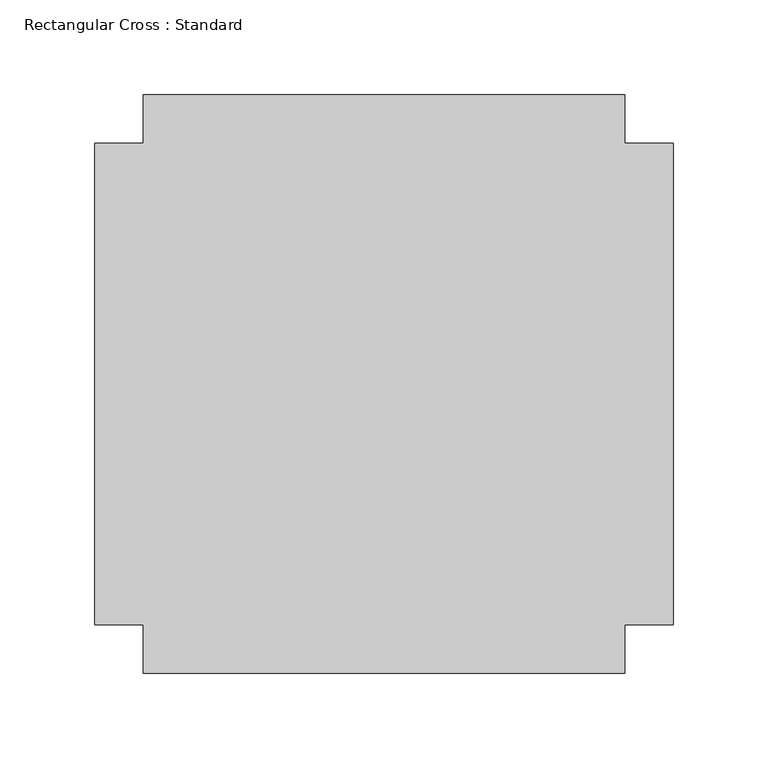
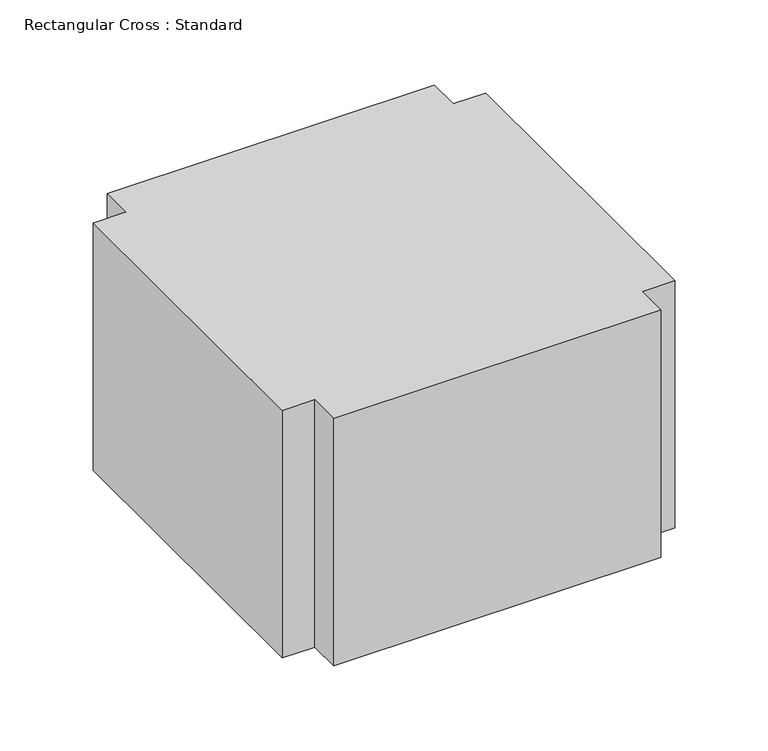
"""IFC4 building model written with IfcOpenShell, lengths in millimetres: duct fitting geometry, Rectangular Cross : Standard."""

import ifcopenshell
import ifcopenshell.guid

model = None  # the IFC model being written
_history = None  # IfcOwnerHistory: only IFC2X3 demands one
_inside = {}  # id of a spatial element -> (the spatial element, [elements in it])
_under = {}  # id of a project, library or spatial element -> (it, [spatial elements below it])
_declared = {}  # id of a project -> (the project, [libraries it declares])
_typed = {}  # id of a type object -> (the type object, [elements of that type])
_made_of = {}  # id of a material, layer set ... -> (it, [elements and type objects made of it])


def new_model(schema):
    """Start an empty IFC model of exactly this schema.

    Asked for "IFC4X3", IfcOpenShell would pick the latest addendum, in which some entities
    have other attributes; the version numbers below select the first issue.
    IFC2X3 requires an IfcOwnerHistory on every rooted entity: one is made here for all.
    """
    global model, _history
    if schema == "IFC4X3":
        model = ifcopenshell.file(schema_version=(4, 3, 0, 0))
    else:
        model = ifcopenshell.file(schema=schema)
    _inside.clear()
    _under.clear()
    _declared.clear()
    _typed.clear()
    _made_of.clear()
    _history = None
    if model.schema == "IFC2X3":
        org = make("IfcOrganization", Name="unknown")
        user = make(
            "IfcPersonAndOrganization",
            ThePerson=make("IfcPerson", FamilyName="unknown"),
            TheOrganization=org,
        )
        app = make(
            "IfcApplication",
            ApplicationDeveloper=org,
            Version="unknown",
            ApplicationFullName="unknown",
            ApplicationIdentifier="unknown",
        )
        _history = make(
            "IfcOwnerHistory",
            OwningUser=user,
            OwningApplication=app,
            ChangeAction="ADDED",
            CreationDate=0,
        )
    return model


def make(cls, **values):
    """One entity of the class cls with the attributes given. An attribute that is None is left unset."""
    return model.create_entity(
        cls, **{name: value for name, value in values.items() if value is not None}
    )


def rooted(cls, **values):
    """An entity with a GlobalId (a new one), such as an element, a storey or a relation."""
    return make(cls, GlobalId=ifcopenshell.guid.new(), OwnerHistory=_history, **values)


def si_unit(unit_type, name, prefix=None):
    """IfcSIUnit, for example si_unit("LENGTHUNIT", "METRE", prefix="MILLI")."""
    return make("IfcSIUnit", UnitType=unit_type, Prefix=prefix, Name=name)


def assignment(units):
    """IfcUnitAssignment: the units of a project."""
    return None if units is None else make("IfcUnitAssignment", Units=units)


def point(xyz):
    """IfcCartesianPoint."""
    return None if xyz is None else make("IfcCartesianPoint", Coordinates=xyz)


def direction(xyz):
    """IfcDirection."""
    return None if xyz is None else make("IfcDirection", DirectionRatios=xyz)


def frame(location, z_axis=None, x_axis=None):
    """IfcAxis2Placement3D, a coordinate frame: its origin and axes. An axis left out is left unset."""
    return make(
        "IfcAxis2Placement3D",
        Location=point(location),
        Axis=direction(z_axis),
        RefDirection=direction(x_axis),
    )


def origin():
    """The frame at (0, 0, 0) with its axes left unset."""
    return frame((0.0, 0.0, 0.0))


def place(relative_to, where):
    """IfcLocalPlacement: puts the frame where relative to a parent placement (None: the world)."""
    return make(
        "IfcLocalPlacement", PlacementRelTo=relative_to, RelativePlacement=where
    )


def context(
    kind, dimensions, precision=None, world=None, true_north=None, identifier=None
):
    """IfcGeometricRepresentationContext, for example the 3D "Model" context."""
    return make(
        "IfcGeometricRepresentationContext",
        ContextIdentifier=identifier,
        ContextType=kind,
        CoordinateSpaceDimension=dimensions,
        Precision=precision,
        WorldCoordinateSystem=world,
        TrueNorth=true_north,
    )


def project(units=None, contexts=None):
    """IfcProject with its units and contexts."""
    return rooted(
        "IfcProject",
        Name="project",
        RepresentationContexts=contexts,
        UnitsInContext=assignment(units),
    )


def spatial(cls, under=None, at=None, **own):
    """A site, building, storey or space (cls), placed at a placement, below another one or the project."""
    s = rooted(cls, ObjectPlacement=at, **own)
    if under is not None:
        _under.setdefault(under.id(), (under, []))[1].append(s)
    return s


def polyline(points):
    """IfcPolyline through the points."""
    return make("IfcPolyline", Points=[point(p) for p in points])


def outline(outer, holes=None, kind="AREA"):
    """IfcArbitraryClosedProfileDef: a profile drawn as a closed curve; with holes, ...WithVoids."""
    if holes is None:
        return make("IfcArbitraryClosedProfileDef", ProfileType=kind, OuterCurve=outer)
    return make(
        "IfcArbitraryProfileDefWithVoids",
        ProfileType=kind,
        OuterCurve=outer,
        InnerCurves=holes,
    )


def extrude(swept, where, along, depth):
    """IfcExtrudedAreaSolid: the profile swept, set in the frame where, extruded along a direction by depth."""
    return make(
        "IfcExtrudedAreaSolid",
        SweptArea=swept,
        Position=where,
        ExtrudedDirection=direction(along),
        Depth=depth,
    )


def shape(context_of_items, identifier, shape_type, items):
    """IfcShapeRepresentation: the items that make up one representation, for example the "Body"."""
    return make(
        "IfcShapeRepresentation",
        ContextOfItems=context_of_items,
        RepresentationIdentifier=identifier,
        RepresentationType=shape_type,
        Items=items,
    )


def source(mapping_origin, context_of_items, identifier, shape_type, items):
    """IfcRepresentationMap: a shape defined once, which mapped items show again and again."""
    return make(
        "IfcRepresentationMap",
        MappingOrigin=mapping_origin,
        MappedRepresentation=shape(context_of_items, identifier, shape_type, items),
    )


def transform(
    local_origin,
    x_axis=None,
    y_axis=None,
    z_axis=None,
    scale=None,
    scale2=None,
    scale3=None,
    uniform=True,
):
    """IfcCartesianTransformationOperator3D, or its non-uniform kind. x_axis, y_axis, z_axis: its Axis1, 2, 3."""
    if uniform:
        return make(
            "IfcCartesianTransformationOperator3D",
            Axis1=direction(x_axis),
            Axis2=direction(y_axis),
            LocalOrigin=point(local_origin),
            Scale=scale,
            Axis3=direction(z_axis),
        )
    return make(
        "IfcCartesianTransformationOperator3DnonUniform",
        Axis1=direction(x_axis),
        Axis2=direction(y_axis),
        LocalOrigin=point(local_origin),
        Scale=scale,
        Axis3=direction(z_axis),
        Scale2=scale2,
        Scale3=scale3,
    )


def mapped(mapping_source, mapping_target):
    """IfcMappedItem: shows the shape of a source again, moved by a transform."""
    return make(
        "IfcMappedItem", MappingSource=mapping_source, MappingTarget=mapping_target
    )


def made_of(thing, what):
    """Note that an element or type object is made of a material, layer set ...; save() writes the relation."""
    if what is not None:
        _made_of.setdefault(what.id(), (what, []))[1].append(thing)
    return thing


def element(
    cls,
    number,
    at=None,
    inside=None,
    cuts=None,
    type_object=None,
    material=None,
    context=None,
    identifier="Body",
    shape_type=None,
    held_by="IfcProductDefinitionShape",
    body=None,
    shapes=None,
    **own,
):
    """One element of the class cls, such as IfcWall. Its Tag is "e" and its number.

    at: its placement. inside: the storey or other place that contains it. cuts: it is an
    opening in that element (IfcRelVoidsElement). A single representation is given by context,
    identifier, shape_type and body (its items); several are given by shapes. held_by: the class
    of the entity that holds the representations. save() writes the other relations.
    """
    e = rooted(cls, Tag="e%d" % number, ObjectPlacement=at, **own)
    if body is not None:
        shapes = [shape(context, identifier, shape_type, body)]
    if shapes is not None:
        e.Representation = make(held_by, Representations=shapes)
    if inside is not None:
        _inside.setdefault(inside.id(), (inside, []))[1].append(e)
    if cuts is not None:
        rooted(
            "IfcRelVoidsElement", RelatingBuildingElement=cuts, RelatedOpeningElement=e
        )
    if type_object is not None:
        _typed.setdefault(type_object.id(), (type_object, []))[1].append(e)
    return made_of(e, material)


def aggregate(whole, parts):
    """IfcRelAggregates: a whole, such as a stair, and the parts it consists of."""
    return rooted("IfcRelAggregates", RelatingObject=whole, RelatedObjects=parts)


def save(model, path):
    """Write the relations noted so far, then the file.

    IfcRelAggregates (storeys below a building ...), IfcRelContainedInSpatialStructure (elements
    in a storey), IfcRelDefinesByType, IfcRelAssociatesMaterial and IfcRelDeclares: one each for
    every whole, place, type object, material and project.
    """
    for whole, parts in _under.values():
        aggregate(whole, parts)
    for where, things in _inside.values():
        rooted(
            "IfcRelContainedInSpatialStructure",
            RelatedElements=things,
            RelatingStructure=where,
        )
    for kind, things in _typed.values():
        rooted("IfcRelDefinesByType", RelatedObjects=things, RelatingType=kind)
    for what, things in _made_of.values():
        rooted("IfcRelAssociatesMaterial", RelatedObjects=things, RelatingMaterial=what)
    for by, libraries in _declared.values():
        rooted("IfcRelDeclares", RelatingContext=by, RelatedDefinitions=libraries)
    model.write(path)


def rectangular_cross_standard_90e2e06b(model_context):
    return source(origin(), model_context, "Body", "SweptSolid", [
        extrude(outline(polyline([(127.0, -152.4), (-127.0, -152.4), (-127.0, -127.0), (-152.4, -127.0), (-152.4, 127.0), (-127.0, 127.0), (-127.0, 152.4), (127.0, 152.4), (127.0, 127.0), (152.4, 127.0), (152.4, -127.0), (127.0, -127.0), (127.0, -152.4)])), frame((0.0, 0.0, -101.6), z_axis=(0.0, 0.0, 1.0), x_axis=(1.0, 0.0, 0.0)), (0.0, 0.0, 1.0), 203.2),
    ])


if __name__ == "__main__":
    model = new_model("IFC4")
    model_context = context("Model", 3, world=origin())
    ifc_project = project(units=[si_unit("LENGTHUNIT", "METRE", prefix="MILLI")], contexts=[model_context])
    site = spatial("IfcSite", under=ifc_project)
    building = spatial("IfcBuilding", under=site)
    placement = place(None, origin())
    rectangular_cross_standard_shape = rectangular_cross_standard_90e2e06b(model_context)
    element("IfcDuctFitting", 1, ObjectType="Rectangular Cross : Standard", at=placement, inside=building, context=model_context, shape_type="MappedRepresentation", body=[
        mapped(rectangular_cross_standard_shape, transform((0.0, 0.0, 0.0), x_axis=(1.0, 0.0, 0.0), y_axis=(0.0, 1.0, 0.0), z_axis=(0.0, 0.0, 1.0))),
    ])
    save(model, "model.ifc")
